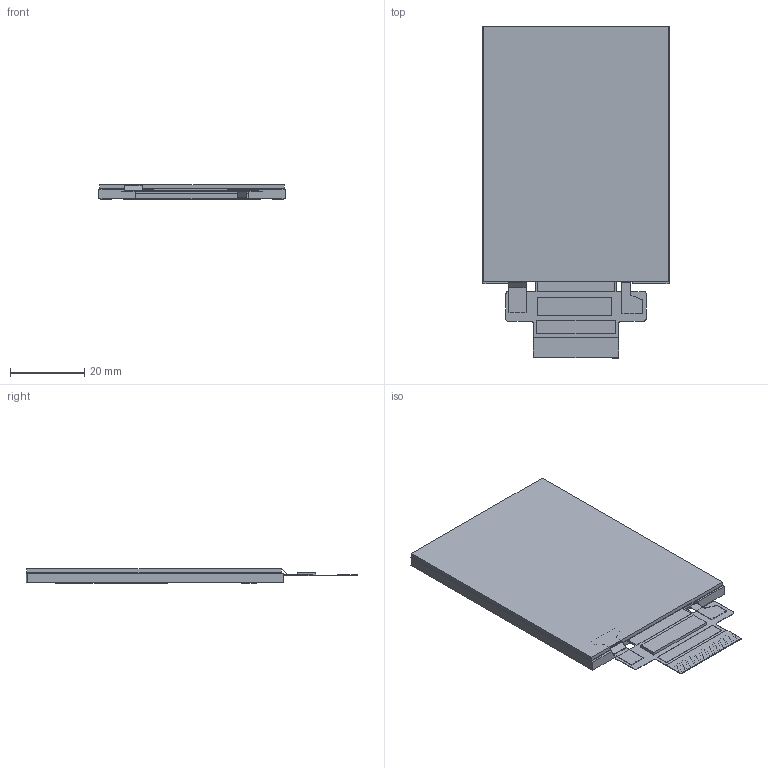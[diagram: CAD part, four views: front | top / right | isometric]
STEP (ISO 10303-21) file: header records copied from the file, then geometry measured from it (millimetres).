
FILE_DESCRIPTION (( 'STEP AP203' ), '1' );
FILE_NAME ('NHD-2.8-240320DA-CTXN-T_Rev1A.STEP', '2025-02-04T23:01:18', ( '' ), ( '' ), 'SwSTEP 2.0', 'SolidWorks 2019', '' );
FILE_SCHEMA (( 'CONFIG_CONTROL_DESIGN' ));
Length unit declared in the file: millimetre
Products named in the file (2): NHD-2.8-240320DA-CTXN-T_Rev1A
Bounding box: 50 x 89.2 x 3.95 mm (x, y, z)
Volume: 12666 mm3; surface area: 30427.7 mm2
Topology: 11 solids, 11 shells, 439 faces, 1094 edges, 729 vertices
Faces by surface type: plane 403, cylinder 36
Entity records: 13220 total; most frequent: CARTESIAN_POINT 2901, ORIENTED_EDGE 2188, DIRECTION 1840, EDGE_CURVE 1094, VECTOR 838, LINE 838, VERTEX_POINT 729, AXIS2_PLACEMENT_3D 501
